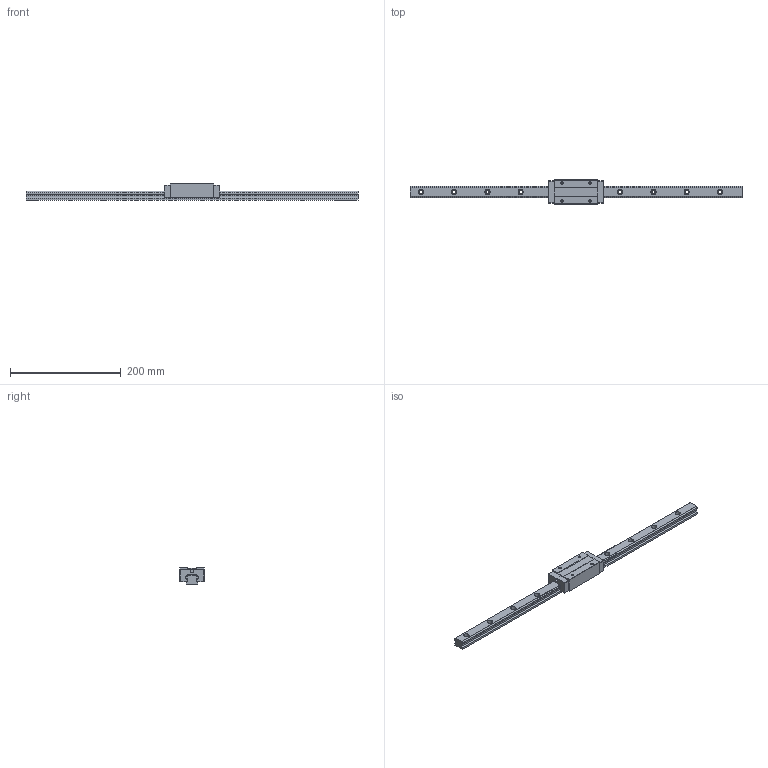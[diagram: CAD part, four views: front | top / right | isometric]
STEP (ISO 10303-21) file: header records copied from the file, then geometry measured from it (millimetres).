
FILE_DESCRIPTION (( 'STEP AP203' ), '1' );
FILE_NAME ('TRH20VE-XN.STEP', '2023-01-19T02:54:58', ( '' ), ( '' ), 'SwSTEP 2.0', 'SolidWorks 2019', '' );
FILE_SCHEMA (( 'CONFIG_CONTROL_DESIGN' ));
Length unit declared in the file: millimetre
Products named in the file (1): TRH20VE-XN
Bounding box: 600 x 44 x 30 mm (x, y, z)
Volume: 252221.9 mm3; surface area: 70587.9 mm2
Topology: 4 solids, 4 shells, 172 faces, 440 edges, 284 vertices
Faces by surface type: plane 84, cylinder 72, cone 16
Entity records: 5283 total; most frequent: DIRECTION 930, CARTESIAN_POINT 889, ORIENTED_EDGE 864, EDGE_CURVE 432, AXIS2_PLACEMENT_3D 325, VERTEX_POINT 284, VECTOR 280, LINE 280
